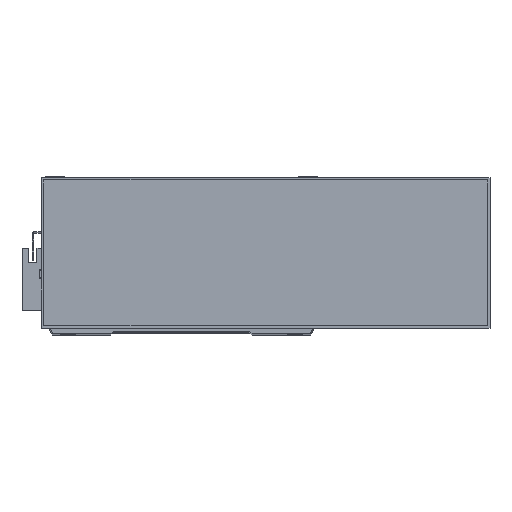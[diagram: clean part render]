
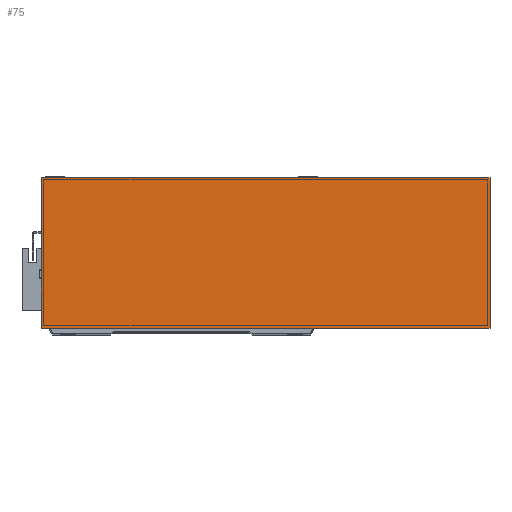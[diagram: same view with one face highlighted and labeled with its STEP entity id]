
A CAD part, top view. The second image highlights one B-rep face of the part: STEP entity #75.
In plain terms, the highlighted planar face has unit normal (0, 0, 1).
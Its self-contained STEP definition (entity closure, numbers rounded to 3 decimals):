
#75 = ADVANCED_FACE ( 'NONE', ( #16556 ), #18805, .F. ) ;
#1120 = CARTESIAN_POINT ( 'NONE',  ( 0., 0., 50. ) ) ;
#2152 = VECTOR ( 'NONE', #12550, 1000. ) ;
#2341 = VERTEX_POINT ( 'NONE', #24755 ) ;
#2387 = AXIS2_PLACEMENT_3D ( 'NONE', #16673, #11667, #26030 ) ;
#3202 = CARTESIAN_POINT ( 'NONE',  ( 277., 93., 50. ) ) ;
#4130 = EDGE_CURVE ( 'NONE', #17615, #9070, #20724, .T. ) ;
#4548 = VECTOR ( 'NONE', #18091, 1000. ) ;
#5431 = DIRECTION ( 'NONE',  ( 0., 1., 0. ) ) ;
#5947 = VECTOR ( 'NONE', #6240, 1000. ) ;
#6240 = DIRECTION ( 'NONE',  ( 0., -1., 0. ) ) ;
#6835 = EDGE_CURVE ( 'NONE', #2341, #17615, #21937, .T. ) ;
#7936 = LINE ( 'NONE', #20921, #2152 ) ;
#9070 = VERTEX_POINT ( 'NONE', #13388 ) ;
#9177 = ORIENTED_EDGE ( 'NONE', *, *, #17209, .T. ) ;
#11143 = LINE ( 'NONE', #18021, #16036 ) ;
#11667 = DIRECTION ( 'NONE',  ( 0., 0., -1. ) ) ;
#12550 = DIRECTION ( 'NONE',  ( -1., 0., 0. ) ) ;
#12741 = CARTESIAN_POINT ( 'NONE',  ( 0., 0., 50. ) ) ;
#13388 = CARTESIAN_POINT ( 'NONE',  ( 277., 0., 50. ) ) ;
#14947 = ORIENTED_EDGE ( 'NONE', *, *, #4130, .T. ) ;
#16036 = VECTOR ( 'NONE', #5431, 1000. ) ;
#16556 = FACE_OUTER_BOUND ( 'NONE', #26839, .T. ) ;
#16673 = CARTESIAN_POINT ( 'NONE',  ( 0., 0., 50. ) ) ;
#17209 = EDGE_CURVE ( 'NONE', #26515, #2341, #7936, .T. ) ;
#17539 = EDGE_CURVE ( 'NONE', #9070, #26515, #11143, .T. ) ;
#17615 = VERTEX_POINT ( 'NONE', #1120 ) ;
#18021 = CARTESIAN_POINT ( 'NONE',  ( 277., 0., 50. ) ) ;
#18083 = CARTESIAN_POINT ( 'NONE',  ( 0., 0., 50. ) ) ;
#18091 = DIRECTION ( 'NONE',  ( 1., 0., 0. ) ) ;
#18805 = PLANE ( 'NONE',  #2387 ) ;
#20724 = LINE ( 'NONE', #18083, #4548 ) ;
#20880 = ORIENTED_EDGE ( 'NONE', *, *, #6835, .T. ) ;
#20921 = CARTESIAN_POINT ( 'NONE',  ( 0., 93., 50. ) ) ;
#21572 = ORIENTED_EDGE ( 'NONE', *, *, #17539, .T. ) ;
#21937 = LINE ( 'NONE', #12741, #5947 ) ;
#24755 = CARTESIAN_POINT ( 'NONE',  ( 0., 93., 50. ) ) ;
#26030 = DIRECTION ( 'NONE',  ( -1., 0., 0. ) ) ;
#26515 = VERTEX_POINT ( 'NONE', #3202 ) ;
#26839 = EDGE_LOOP ( 'NONE', ( #20880, #14947, #21572, #9177 ) ) ;
